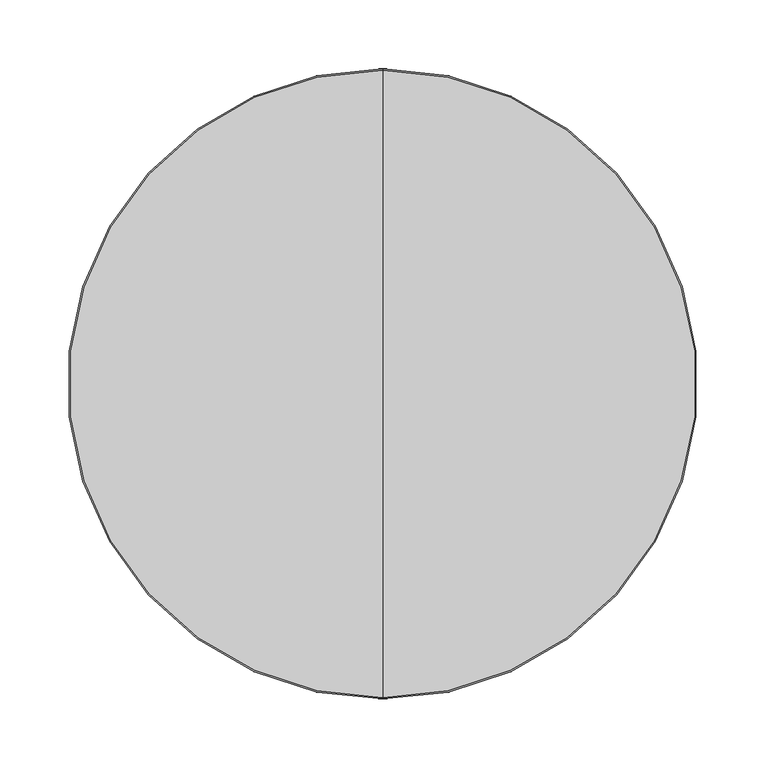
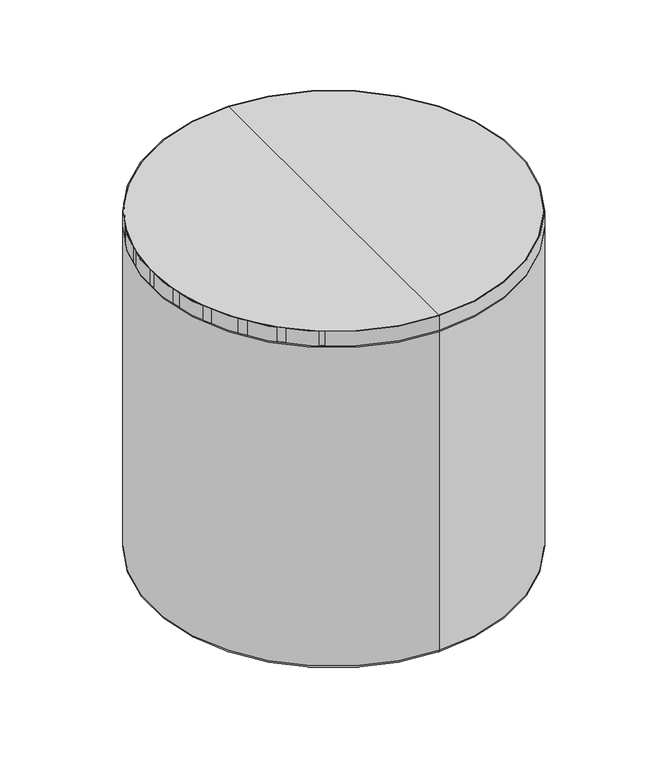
"""IFC4 building model written with IfcOpenShell, lengths in millimetres: furniture geometry, Indiana-Otty-Ottoman_Round_Table : 840-1818ROT."""

from ifc_helpers import new_model, si_unit, point, frame, origin, place, context, project, spatial, polyline, circle_curve, ellipse_curve, trimmed, source, transform, mapped, element, save
from ifc_brep_helpers import plane_surface, cylinder_surface, revolved_surface, advanced_brep


def furniture_52c28c99(model_context):
    return source(origin(), model_context, "Body", "AdvancedBrep", [
        advanced_brep(
        [(0.0, -227.6078125, 438.15), (0.0, 227.6078125, 438.15), (0.0, 0.0, 438.15), (0.0, -227.6078125, 457.2), (0.0, 227.6078125, 457.2), (0.0, 0.0, 457.2)],
        [
            (0, 1, circle_curve(frame((0.0, 0.0, 438.15), z_axis=(0.0, 0.0, -1.0), x_axis=(0.0, 1.0, 0.0)), 227.6078125)),
            (1, 2),
            (2, 0),
            (1, 0, circle_curve(frame((0.0, 0.0, 438.15), z_axis=(0.0, 0.0, -1.0), x_axis=(0.0, 1.0, 0.0)), 227.6078125)),
            (3, 4, circle_curve(frame((0.0, 0.0, 457.2), z_axis=(0.0, 0.0, -1.0), x_axis=(0.0, 1.0, 0.0)), 227.6078125)),
            (4, 1),
            (0, 3),
            (4, 3, circle_curve(frame((0.0, 0.0, 457.2), z_axis=(0.0, 0.0, -1.0), x_axis=(0.0, 1.0, 0.0)), 227.6078125)),
            (5, 4),
            (3, 5),
        ],
        [
            plane_surface(frame((0.0, 0.0, 438.15), z_axis=(0.0, 0.0, -1.0), x_axis=(0.0, 1.0, 0.0))),
            cylinder_surface(frame((0.0, 0.0, 463.55), z_axis=(0.0, 0.0, 1.0), x_axis=(0.0, 1.0, 0.0)), 227.6078125),
            plane_surface(frame((0.0, 0.0, 457.2), z_axis=(0.0, 0.0, 1.0), x_axis=(0.0, 1.0, 0.0))),
        ],
        [
            (0, [[1, 2, 3]]),
            (0, [[4, -3, -2]]),
            (1, [[5, 6, -1, 7]]),
            (1, [[8, -7, -4, -6]]),
            (2, [[9, -5, 10]]),
            (2, [[-10, -8, -9]]),
        ],
    ),
        advanced_brep(
        [(0.0, -227.6078125, 438.15), (0.0, 227.6078125, 438.15), (0.0, 227.6078125, 457.2), (0.0, -227.6078125, 457.2), (0.0, -228.6, 438.15), (0.0, 228.6, 438.15), (0.0, -228.6, 457.2), (0.0, 228.6, 457.2)],
        [
            (0, 1, circle_curve(frame((0.0, 0.0, 438.15), z_axis=(0.0, 0.0, -1.0), x_axis=(0.0, 1.0, 0.0)), 227.6078125)),
            (1, 2),
            (2, 3, circle_curve(frame((0.0, 0.0, 457.2), z_axis=(0.0, 0.0, 1.0), x_axis=(0.0, 1.0, 0.0)), 227.6078125)),
            (3, 0),
            (1, 0, circle_curve(frame((0.0, 0.0, 438.15), z_axis=(0.0, 0.0, -1.0), x_axis=(0.0, 1.0, 0.0)), 227.6078125)),
            (3, 2, circle_curve(frame((0.0, 0.0, 457.2), z_axis=(0.0, 0.0, 1.0), x_axis=(0.0, 1.0, 0.0)), 227.6078125)),
            (4, 5, circle_curve(frame((0.0, 0.0, 438.15), z_axis=(0.0, 0.0, -1.0), x_axis=(0.0, 1.0, 0.0)), 228.6)),
            (5, 1),
            (0, 4),
            (5, 4, circle_curve(frame((0.0, 0.0, 438.15), z_axis=(0.0, 0.0, -1.0), x_axis=(0.0, 1.0, 0.0)), 228.6)),
            (6, 7, circle_curve(frame((0.0, 0.0, 457.2), z_axis=(0.0, 0.0, -1.0), x_axis=(0.0, 1.0, 0.0)), 228.6)),
            (7, 5),
            (4, 6),
            (7, 6, circle_curve(frame((0.0, 0.0, 457.2), z_axis=(0.0, 0.0, -1.0), x_axis=(0.0, 1.0, 0.0)), 228.6)),
            (2, 7),
            (6, 3),
        ],
        [
            revolved_surface(polyline([(0.0, 227.6078125, 457.2), (0.0, 227.6078125, 438.15)]), (0.0, 0.0, 476.25), (0.0, 0.0, 1.0)),
            plane_surface(frame((0.0, 0.0, 438.15), z_axis=(0.0, 0.0, -1.0), x_axis=(0.0, 1.0, 0.0))),
            cylinder_surface(frame((0.0, 0.0, 476.25), z_axis=(0.0, 0.0, 1.0), x_axis=(0.0, 1.0, 0.0)), 228.6),
            plane_surface(frame((0.0, 0.0, 457.2), z_axis=(0.0, 0.0, 1.0), x_axis=(0.0, 1.0, 0.0))),
        ],
        [
            (0, [[1, 2, 3, 4]]),
            (0, [[5, -4, 6, -2]]),
            (1, [[7, 8, -1, 9]]),
            (1, [[10, -9, -5, -8]]),
            (2, [[11, 12, -7, 13]]),
            (2, [[14, -13, -10, -12]]),
            (3, [[-3, 15, -11, 16]]),
            (3, [[-6, -16, -14, -15]]),
        ],
    ),
        advanced_brep(
        [(126.4514457, -129.4834071, 19.8875), (126.4514457, -106.9834071, 19.8875), (126.4514457, -151.9834071, 19.8875), (126.4514457, -107.4318989, 4.2458827), (126.4514457, -151.5349153, 4.2458827), (126.4514457, -111.9170406, -0.1125), (126.4514457, -147.0497736, -0.1125), (126.4514457, -119.2157893, -0.1125), (126.4514457, -139.7510249, -0.1125), (126.4514457, -123.1102654, 3.9179615), (126.4514457, -135.8565488, 3.9179615), (126.4514457, -129.4834071, 3.9179615)],
        [
            (0, 1),
            (1, 2, circle_curve(frame((126.4514457, -129.4834071, 19.8875), z_axis=(0.0, 0.0, 1.0), x_axis=(0.0, 1.0, 0.0)), 22.5)),
            (2, 0),
            (2, 1, circle_curve(frame((126.4514457, -129.4834071, 19.8875), z_axis=(0.0, 0.0, 1.0), x_axis=(0.0, 1.0, 0.0)), 22.5)),
            (1, 3),
            (3, 4, circle_curve(frame((126.4514457, -129.4834071, 4.2458827), z_axis=(0.0, 0.0, 1.0), x_axis=(0.0, 1.0, 0.0)), 22.0515082)),
            (4, 2),
            (4, 3, circle_curve(frame((126.4514457, -129.4834071, 4.2458827), z_axis=(0.0, 0.0, 1.0), x_axis=(0.0, 1.0, 0.0)), 22.0515082)),
            (3, 5, circle_curve(frame((126.4514457, -111.9170406, 4.3744851), z_axis=(-1.0, 0.0, 0.0), x_axis=(0.0, -1.0, 0.0)), 4.4869851)),
            (5, 6, circle_curve(frame((126.4514457, -129.4834071, -0.1125), z_axis=(0.0, 0.0, 1.0), x_axis=(0.0, 1.0, 0.0)), 17.5663665)),
            (6, 4, circle_curve(frame((126.4514457, -147.0497736, 4.3744851), z_axis=(-1.0, 0.0, 0.0), x_axis=(0.0, 1.0, 0.0)), 4.4869851)),
            (6, 5, circle_curve(frame((126.4514457, -129.4834071, -0.1125), z_axis=(0.0, 0.0, 1.0), x_axis=(0.0, 1.0, 0.0)), 17.5663665)),
            (5, 7),
            (7, 8, circle_curve(frame((126.4514457, -129.4834071, -0.1125), z_axis=(0.0, 0.0, 1.0), x_axis=(0.0, 1.0, 0.0)), 10.2676178)),
            (8, 6),
            (8, 7, circle_curve(frame((126.4514457, -129.4834071, -0.1125), z_axis=(0.0, 0.0, 1.0), x_axis=(0.0, 1.0, 0.0)), 10.2676178)),
            (7, 9, circle_curve(frame((126.4514457, -119.2157893, 3.7842702), z_axis=(-1.0, 0.0, 0.0), x_axis=(0.0, -1.0, 0.0)), 3.8967702)),
            (9, 10, circle_curve(frame((126.4514457, -129.4834071, 3.9179615), z_axis=(0.0, 0.0, 1.0), x_axis=(0.0, 1.0, 0.0)), 6.3731417)),
            (10, 8, circle_curve(frame((126.4514457, -139.7510249, 3.7842702), z_axis=(-1.0, 0.0, 0.0), x_axis=(0.0, 1.0, 0.0)), 3.8967702)),
            (10, 9, circle_curve(frame((126.4514457, -129.4834071, 3.9179615), z_axis=(0.0, 0.0, 1.0), x_axis=(0.0, 1.0, 0.0)), 6.3731417)),
            (9, 11),
            (11, 10),
        ],
        [
            plane_surface(frame((126.4514457, -129.4834071, 19.8875), z_axis=(0.0, 0.0, 1.0), x_axis=(0.0, 1.0, 0.0))),
            revolved_surface(polyline([(126.4514457, -107.4318989, 4.2458827), (126.4514457, -106.9834071, 19.8875)]), (126.4514457, -129.4834071, 31.0803862), (0.0, 0.0, 1.0)),
            revolved_surface(trimmed(ellipse_curve(frame((126.4514457, -111.9170406, 4.3744851), z_axis=(1.0, 0.0, 0.0), x_axis=(0.0, -1.0, 0.0)), 4.4869851, 4.4869851), [point((126.4514457, -111.9170406, -0.1125))], [point((126.4514457, -107.4318989, 4.2458827))], True, "CARTESIAN"), (126.4514457, -129.4834071, 31.0803862), (0.0, 0.0, 1.0)),
            plane_surface(frame((126.4514457, -129.4834071, -0.1125), z_axis=(0.0, 0.0, -1.0), x_axis=(0.0, 1.0, 0.0))),
            revolved_surface(trimmed(ellipse_curve(frame((126.4514457, -119.2157893, 3.7842702), z_axis=(1.0, 0.0, 0.0), x_axis=(0.0, -1.0, 0.0)), 3.8967702, 3.8967702), [point((126.4514457, -123.1102654, 3.9179615))], [point((126.4514457, -119.2157893, -0.1125))], True, "CARTESIAN"), (126.4514457, -129.4834071, 31.0803862), (0.0, 0.0, 1.0)),
            plane_surface(frame((126.4514457, -129.4834071, 3.9179615), z_axis=(0.0, 0.0, -1.0), x_axis=(0.0, 1.0, 0.0))),
        ],
        [
            (0, [[1, 2, 3]]),
            (0, [[-3, 4, -1]]),
            (1, [[-2, 5, 6, 7]]),
            (1, [[-4, -7, 8, -5]]),
            (2, [[-6, 9, 10, 11]]),
            (2, [[-8, -11, 12, -9]]),
            (3, [[-10, 13, 14, 15]]),
            (3, [[-12, -15, 16, -13]]),
            (4, [[-14, 17, 18, 19]]),
            (4, [[-16, -19, 20, -17]]),
            (5, [[-18, 21, 22]]),
            (5, [[-20, -22, -21]]),
        ],
    ),
        advanced_brep(
        [(-129.4834071, -126.4514457, 19.8875), (-106.9834071, -126.4514457, 19.8875), (-151.9834071, -126.4514457, 19.8875), (-107.4318989, -126.4514457, 4.2458827), (-151.5349153, -126.4514457, 4.2458827), (-111.9170406, -126.4514457, -0.1125), (-147.0497736, -126.4514457, -0.1125), (-119.2157893, -126.4514457, -0.1125), (-139.7510249, -126.4514457, -0.1125), (-123.1102654, -126.4514457, 3.9179615), (-135.8565488, -126.4514457, 3.9179615), (-129.4834071, -126.4514457, 3.9179615)],
        [
            (0, 1),
            (1, 2, circle_curve(frame((-129.4834071, -126.4514457, 19.8875), z_axis=(0.0, 0.0, 1.0), x_axis=(1.0, 0.0, 0.0)), 22.5)),
            (2, 0),
            (2, 1, circle_curve(frame((-129.4834071, -126.4514457, 19.8875), z_axis=(0.0, 0.0, 1.0), x_axis=(1.0, 0.0, 0.0)), 22.5)),
            (1, 3),
            (3, 4, circle_curve(frame((-129.4834071, -126.4514457, 4.2458827), z_axis=(0.0, 0.0, 1.0), x_axis=(1.0, 0.0, 0.0)), 22.0515082)),
            (4, 2),
            (4, 3, circle_curve(frame((-129.4834071, -126.4514457, 4.2458827), z_axis=(0.0, 0.0, 1.0), x_axis=(1.0, 0.0, 0.0)), 22.0515082)),
            (3, 5, circle_curve(frame((-111.9170406, -126.4514457, 4.3744851), z_axis=(0.0, 1.0, 0.0), x_axis=(-1.0, 0.0, 0.0)), 4.4869851)),
            (5, 6, circle_curve(frame((-129.4834071, -126.4514457, -0.1125), z_axis=(0.0, 0.0, 1.0), x_axis=(1.0, 0.0, 0.0)), 17.5663665)),
            (6, 4, circle_curve(frame((-147.0497736, -126.4514457, 4.3744851), z_axis=(0.0, 1.0, 0.0), x_axis=(1.0, 0.0, 0.0)), 4.4869851)),
            (6, 5, circle_curve(frame((-129.4834071, -126.4514457, -0.1125), z_axis=(0.0, 0.0, 1.0), x_axis=(1.0, 0.0, 0.0)), 17.5663665)),
            (5, 7),
            (7, 8, circle_curve(frame((-129.4834071, -126.4514457, -0.1125), z_axis=(0.0, 0.0, 1.0), x_axis=(1.0, 0.0, 0.0)), 10.2676178)),
            (8, 6),
            (8, 7, circle_curve(frame((-129.4834071, -126.4514457, -0.1125), z_axis=(0.0, 0.0, 1.0), x_axis=(1.0, 0.0, 0.0)), 10.2676178)),
            (7, 9, circle_curve(frame((-119.2157893, -126.4514457, 3.7842702), z_axis=(0.0, 1.0, 0.0), x_axis=(-1.0, 0.0, 0.0)), 3.8967702)),
            (9, 10, circle_curve(frame((-129.4834071, -126.4514457, 3.9179615), z_axis=(0.0, 0.0, 1.0), x_axis=(1.0, 0.0, 0.0)), 6.3731417)),
            (10, 8, circle_curve(frame((-139.7510249, -126.4514457, 3.7842702), z_axis=(0.0, 1.0, 0.0), x_axis=(1.0, 0.0, 0.0)), 3.8967702)),
            (10, 9, circle_curve(frame((-129.4834071, -126.4514457, 3.9179615), z_axis=(0.0, 0.0, 1.0), x_axis=(1.0, 0.0, 0.0)), 6.3731417)),
            (9, 11),
            (11, 10),
        ],
        [
            plane_surface(frame((-129.4834071, -126.4514457, 19.8875), z_axis=(0.0, 0.0, 1.0), x_axis=(1.0, 0.0, 0.0))),
            revolved_surface(polyline([(-107.4318989, -126.4514457, 4.2458827), (-106.9834071, -126.4514457, 19.8875)]), (-129.4834071, -126.4514457, 31.0803862), (0.0, 0.0, 1.0)),
            revolved_surface(trimmed(ellipse_curve(frame((-111.9170406, -126.4514457, 4.3744851), z_axis=(0.0, -1.0, 0.0), x_axis=(-1.0, 0.0, 0.0)), 4.4869851, 4.4869851), [point((-111.9170406, -126.4514457, -0.1125))], [point((-107.4318989, -126.4514457, 4.2458827))], True, "CARTESIAN"), (-129.4834071, -126.4514457, 31.0803862), (0.0, 0.0, 1.0)),
            plane_surface(frame((-129.4834071, -126.4514457, -0.1125), z_axis=(0.0, 0.0, -1.0), x_axis=(1.0, 0.0, 0.0))),
            revolved_surface(trimmed(ellipse_curve(frame((-119.2157893, -126.4514457, 3.7842702), z_axis=(0.0, -1.0, 0.0), x_axis=(-1.0, 0.0, 0.0)), 3.8967702, 3.8967702), [point((-123.1102654, -126.4514457, 3.9179615))], [point((-119.2157893, -126.4514457, -0.1125))], True, "CARTESIAN"), (-129.4834071, -126.4514457, 31.0803862), (0.0, 0.0, 1.0)),
            plane_surface(frame((-129.4834071, -126.4514457, 3.9179615), z_axis=(0.0, 0.0, -1.0), x_axis=(1.0, 0.0, 0.0))),
        ],
        [
            (0, [[1, 2, 3]]),
            (0, [[-3, 4, -1]]),
            (1, [[-2, 5, 6, 7]]),
            (1, [[-4, -7, 8, -5]]),
            (2, [[-6, 9, 10, 11]]),
            (2, [[-8, -11, 12, -9]]),
            (3, [[-10, 13, 14, 15]]),
            (3, [[-12, -15, 16, -13]]),
            (4, [[-14, 17, 18, 19]]),
            (4, [[-16, -19, 20, -17]]),
            (5, [[-18, 21, 22]]),
            (5, [[-20, -22, -21]]),
        ],
    ),
        advanced_brep(
        [(129.4834071, 126.4514457, 19.8875), (106.9834071, 126.4514457, 19.8875), (151.9834071, 126.4514457, 19.8875), (107.4318989, 126.4514457, 4.2458827), (151.5349153, 126.4514457, 4.2458827), (111.9170406, 126.4514457, -0.1125), (147.0497736, 126.4514457, -0.1125), (119.2157893, 126.4514457, -0.1125), (139.7510249, 126.4514457, -0.1125), (123.1102654, 126.4514457, 3.9179615), (135.8565488, 126.4514457, 3.9179615), (129.4834071, 126.4514457, 3.9179615)],
        [
            (0, 1),
            (1, 2, circle_curve(frame((129.4834071, 126.4514457, 19.8875), z_axis=(0.0, 0.0, 1.0), x_axis=(-1.0, 0.0, 0.0)), 22.5)),
            (2, 0),
            (2, 1, circle_curve(frame((129.4834071, 126.4514457, 19.8875), z_axis=(0.0, 0.0, 1.0), x_axis=(-1.0, 0.0, 0.0)), 22.5)),
            (1, 3),
            (3, 4, circle_curve(frame((129.4834071, 126.4514457, 4.2458827), z_axis=(0.0, 0.0, 1.0), x_axis=(-1.0, 0.0, 0.0)), 22.0515082)),
            (4, 2),
            (4, 3, circle_curve(frame((129.4834071, 126.4514457, 4.2458827), z_axis=(0.0, 0.0, 1.0), x_axis=(-1.0, 0.0, 0.0)), 22.0515082)),
            (3, 5, circle_curve(frame((111.9170406, 126.4514457, 4.3744851), z_axis=(0.0, -1.0, 0.0), x_axis=(1.0, 0.0, 0.0)), 4.4869851)),
            (5, 6, circle_curve(frame((129.4834071, 126.4514457, -0.1125), z_axis=(0.0, 0.0, 1.0), x_axis=(-1.0, 0.0, 0.0)), 17.5663665)),
            (6, 4, circle_curve(frame((147.0497736, 126.4514457, 4.3744851), z_axis=(0.0, -1.0, 0.0), x_axis=(-1.0, 0.0, 0.0)), 4.4869851)),
            (6, 5, circle_curve(frame((129.4834071, 126.4514457, -0.1125), z_axis=(0.0, 0.0, 1.0), x_axis=(-1.0, 0.0, 0.0)), 17.5663665)),
            (5, 7),
            (7, 8, circle_curve(frame((129.4834071, 126.4514457, -0.1125), z_axis=(0.0, 0.0, 1.0), x_axis=(-1.0, 0.0, 0.0)), 10.2676178)),
            (8, 6),
            (8, 7, circle_curve(frame((129.4834071, 126.4514457, -0.1125), z_axis=(0.0, 0.0, 1.0), x_axis=(-1.0, 0.0, 0.0)), 10.2676178)),
            (7, 9, circle_curve(frame((119.2157893, 126.4514457, 3.7842702), z_axis=(0.0, -1.0, 0.0), x_axis=(1.0, 0.0, 0.0)), 3.8967702)),
            (9, 10, circle_curve(frame((129.4834071, 126.4514457, 3.9179615), z_axis=(0.0, 0.0, 1.0), x_axis=(-1.0, 0.0, 0.0)), 6.3731417)),
            (10, 8, circle_curve(frame((139.7510249, 126.4514457, 3.7842702), z_axis=(0.0, -1.0, 0.0), x_axis=(-1.0, 0.0, 0.0)), 3.8967702)),
            (10, 9, circle_curve(frame((129.4834071, 126.4514457, 3.9179615), z_axis=(0.0, 0.0, 1.0), x_axis=(-1.0, 0.0, 0.0)), 6.3731417)),
            (9, 11),
            (11, 10),
        ],
        [
            plane_surface(frame((129.4834071, 126.4514457, 19.8875), z_axis=(0.0, 0.0, 1.0), x_axis=(-1.0, 0.0, 0.0))),
            revolved_surface(polyline([(107.4318989, 126.4514457, 4.2458827), (106.9834071, 126.4514457, 19.8875)]), (129.4834071, 126.4514457, 31.0803862), (0.0, 0.0, 1.0)),
            revolved_surface(trimmed(ellipse_curve(frame((111.9170406, 126.4514457, 4.3744851), z_axis=(0.0, 1.0, 0.0), x_axis=(1.0, 0.0, 0.0)), 4.4869851, 4.4869851), [point((111.9170406, 126.4514457, -0.1125))], [point((107.4318989, 126.4514457, 4.2458827))], True, "CARTESIAN"), (129.4834071, 126.4514457, 31.0803862), (0.0, 0.0, 1.0)),
            plane_surface(frame((129.4834071, 126.4514457, -0.1125), z_axis=(0.0, 0.0, -1.0), x_axis=(-1.0, 0.0, 0.0))),
            revolved_surface(trimmed(ellipse_curve(frame((119.2157893, 126.4514457, 3.7842702), z_axis=(0.0, 1.0, 0.0), x_axis=(1.0, 0.0, 0.0)), 3.8967702, 3.8967702), [point((123.1102654, 126.4514457, 3.9179615))], [point((119.2157893, 126.4514457, -0.1125))], True, "CARTESIAN"), (129.4834071, 126.4514457, 31.0803862), (0.0, 0.0, 1.0)),
            plane_surface(frame((129.4834071, 126.4514457, 3.9179615), z_axis=(0.0, 0.0, -1.0), x_axis=(-1.0, 0.0, 0.0))),
        ],
        [
            (0, [[1, 2, 3]]),
            (0, [[-3, 4, -1]]),
            (1, [[-2, 5, 6, 7]]),
            (1, [[-4, -7, 8, -5]]),
            (2, [[-6, 9, 10, 11]]),
            (2, [[-8, -11, 12, -9]]),
            (3, [[-10, 13, 14, 15]]),
            (3, [[-12, -15, 16, -13]]),
            (4, [[-14, 17, 18, 19]]),
            (4, [[-16, -19, 20, -17]]),
            (5, [[-18, 21, 22]]),
            (5, [[-20, -22, -21]]),
        ],
    ),
        advanced_brep(
        [(-126.4514457, 129.4834071, 19.8875), (-126.4514457, 106.9834071, 19.8875), (-126.4514457, 151.9834071, 19.8875), (-126.4514457, 107.4318989, 4.2458827), (-126.4514457, 151.5349153, 4.2458827), (-126.4514457, 111.9170406, -0.1125), (-126.4514457, 147.0497736, -0.1125), (-126.4514457, 119.2157893, -0.1125), (-126.4514457, 139.7510249, -0.1125), (-126.4514457, 123.1102654, 3.9179615), (-126.4514457, 135.8565488, 3.9179615), (-126.4514457, 129.4834071, 3.9179615)],
        [
            (0, 1),
            (1, 2, circle_curve(frame((-126.4514457, 129.4834071, 19.8875), z_axis=(0.0, 0.0, 1.0), x_axis=(0.0, -1.0, 0.0)), 22.5)),
            (2, 0),
            (2, 1, circle_curve(frame((-126.4514457, 129.4834071, 19.8875), z_axis=(0.0, 0.0, 1.0), x_axis=(0.0, -1.0, 0.0)), 22.5)),
            (1, 3),
            (3, 4, circle_curve(frame((-126.4514457, 129.4834071, 4.2458827), z_axis=(0.0, 0.0, 1.0), x_axis=(0.0, -1.0, 0.0)), 22.0515082)),
            (4, 2),
            (4, 3, circle_curve(frame((-126.4514457, 129.4834071, 4.2458827), z_axis=(0.0, 0.0, 1.0), x_axis=(0.0, -1.0, 0.0)), 22.0515082)),
            (3, 5, circle_curve(frame((-126.4514457, 111.9170406, 4.3744851), z_axis=(1.0, 0.0, 0.0), x_axis=(0.0, 1.0, 0.0)), 4.4869851)),
            (5, 6, circle_curve(frame((-126.4514457, 129.4834071, -0.1125), z_axis=(0.0, 0.0, 1.0), x_axis=(0.0, -1.0, 0.0)), 17.5663665)),
            (6, 4, circle_curve(frame((-126.4514457, 147.0497736, 4.3744851), z_axis=(1.0, 0.0, 0.0), x_axis=(0.0, -1.0, 0.0)), 4.4869851)),
            (6, 5, circle_curve(frame((-126.4514457, 129.4834071, -0.1125), z_axis=(0.0, 0.0, 1.0), x_axis=(0.0, -1.0, 0.0)), 17.5663665)),
            (5, 7),
            (7, 8, circle_curve(frame((-126.4514457, 129.4834071, -0.1125), z_axis=(0.0, 0.0, 1.0), x_axis=(0.0, -1.0, 0.0)), 10.2676178)),
            (8, 6),
            (8, 7, circle_curve(frame((-126.4514457, 129.4834071, -0.1125), z_axis=(0.0, 0.0, 1.0), x_axis=(0.0, -1.0, 0.0)), 10.2676178)),
            (7, 9, circle_curve(frame((-126.4514457, 119.2157893, 3.7842702), z_axis=(1.0, 0.0, 0.0), x_axis=(0.0, 1.0, 0.0)), 3.8967702)),
            (9, 10, circle_curve(frame((-126.4514457, 129.4834071, 3.9179615), z_axis=(0.0, 0.0, 1.0), x_axis=(0.0, -1.0, 0.0)), 6.3731417)),
            (10, 8, circle_curve(frame((-126.4514457, 139.7510249, 3.7842702), z_axis=(1.0, 0.0, 0.0), x_axis=(0.0, -1.0, 0.0)), 3.8967702)),
            (10, 9, circle_curve(frame((-126.4514457, 129.4834071, 3.9179615), z_axis=(0.0, 0.0, 1.0), x_axis=(0.0, -1.0, 0.0)), 6.3731417)),
            (9, 11),
            (11, 10),
        ],
        [
            plane_surface(frame((-126.4514457, 129.4834071, 19.8875), z_axis=(0.0, 0.0, 1.0), x_axis=(0.0, -1.0, 0.0))),
            revolved_surface(polyline([(-126.4514457, 107.4318989, 4.2458827), (-126.4514457, 106.9834071, 19.8875)]), (-126.4514457, 129.4834071, 31.0803862), (0.0, 0.0, 1.0)),
            revolved_surface(trimmed(ellipse_curve(frame((-126.4514457, 111.9170406, 4.3744851), z_axis=(-1.0, 0.0, 0.0), x_axis=(0.0, 1.0, 0.0)), 4.4869851, 4.4869851), [point((-126.4514457, 111.9170406, -0.1125))], [point((-126.4514457, 107.4318989, 4.2458827))], True, "CARTESIAN"), (-126.4514457, 129.4834071, 31.0803862), (0.0, 0.0, 1.0)),
            plane_surface(frame((-126.4514457, 129.4834071, -0.1125), z_axis=(0.0, 0.0, -1.0), x_axis=(0.0, -1.0, 0.0))),
            revolved_surface(trimmed(ellipse_curve(frame((-126.4514457, 119.2157893, 3.7842702), z_axis=(-1.0, 0.0, 0.0), x_axis=(0.0, 1.0, 0.0)), 3.8967702, 3.8967702), [point((-126.4514457, 123.1102654, 3.9179615))], [point((-126.4514457, 119.2157893, -0.1125))], True, "CARTESIAN"), (-126.4514457, 129.4834071, 31.0803862), (0.0, 0.0, 1.0)),
            plane_surface(frame((-126.4514457, 129.4834071, 3.9179615), z_axis=(0.0, 0.0, -1.0), x_axis=(0.0, -1.0, 0.0))),
        ],
        [
            (0, [[1, 2, 3]]),
            (0, [[-3, 4, -1]]),
            (1, [[-2, 5, 6, 7]]),
            (1, [[-4, -7, 8, -5]]),
            (2, [[-6, 9, 10, 11]]),
            (2, [[-8, -11, 12, -9]]),
            (3, [[-10, 13, 14, 15]]),
            (3, [[-12, -15, 16, -13]]),
            (4, [[-14, 17, 18, 19]]),
            (4, [[-16, -19, 20, -17]]),
            (5, [[-18, 21, 22]]),
            (5, [[-20, -22, -21]]),
        ],
    ),
        advanced_brep(
        [(0.0, 228.6, 14.675), (0.0, 225.425, 11.5), (0.0, -225.425, 11.5), (0.0, -228.6, 14.675), (0.0, 228.6, 436.165625), (0.0, -228.6, 436.165625), (0.0, 0.0, 438.15), (0.0, 226.615625, 438.15), (0.0, -226.615625, 438.15), (0.0, 0.0, 11.5), (-129.4834071, -149.4701957, 11.5), (-129.4834071, -103.4326957, 11.5), (-149.4701957, 129.4834071, 11.5), (-103.4326957, 129.4834071, 11.5), (149.4701957, -129.4834071, 11.5), (103.4326957, -129.4834071, 11.5), (129.4834071, 149.4701957, 11.5), (129.4834071, 103.4326957, 11.5), (-129.4834071, -103.4326957, 19.834375), (-129.4834071, -149.4701957, 19.834375), (103.4326957, -129.4834071, 19.834375), (149.4701957, -129.4834071, 19.834375), (129.4834071, 103.4326957, 19.834375), (129.4834071, 149.4701957, 19.834375), (-103.4326957, 129.4834071, 19.834375), (-149.4701957, 129.4834071, 19.834375)],
        [
            (0, 1, circle_curve(frame((0.0, 225.425, 14.675), z_axis=(-1.0, 0.0, 0.0), x_axis=(0.0, 1.0, 0.0)), 3.175)),
            (1, 2, circle_curve(frame((0.0, 0.0, 11.5), z_axis=(0.0, 0.0, 1.0), x_axis=(0.0, 1.0, 0.0)), 225.425)),
            (2, 3, circle_curve(frame((0.0, -225.425, 14.675), z_axis=(-1.0, 0.0, 0.0), x_axis=(0.0, -1.0, 0.0)), 3.175)),
            (3, 0, circle_curve(frame((0.0, 0.0, 14.675), z_axis=(0.0, 0.0, -1.0), x_axis=(0.0, 1.0, 0.0)), 228.6)),
            (0, 3, circle_curve(frame((0.0, 0.0, 14.675), z_axis=(0.0, 0.0, -1.0), x_axis=(0.0, 1.0, 0.0)), 228.6)),
            (2, 1, circle_curve(frame((0.0, 0.0, 11.5), z_axis=(0.0, 0.0, 1.0), x_axis=(0.0, 1.0, 0.0)), 225.425)),
            (4, 0),
            (3, 5),
            (5, 4, circle_curve(frame((0.0, 0.0, 436.165625), z_axis=(0.0, 0.0, -1.0), x_axis=(0.0, 1.0, 0.0)), 228.6)),
            (4, 5, circle_curve(frame((0.0, 0.0, 436.165625), z_axis=(0.0, 0.0, -1.0), x_axis=(0.0, 1.0, 0.0)), 228.6)),
            (6, 7),
            (7, 8, circle_curve(frame((0.0, 0.0, 438.15), z_axis=(0.0, 0.0, 1.0), x_axis=(0.0, 1.0, 0.0)), 226.615625)),
            (8, 6),
            (8, 7, circle_curve(frame((0.0, 0.0, 438.15), z_axis=(0.0, 0.0, 1.0), x_axis=(0.0, 1.0, 0.0)), 226.615625)),
            (1, 9),
            (9, 2),
            (10, 11, circle_curve(frame((-129.4834071, -126.4514457, 11.5), z_axis=(0.0, 0.0, 1.0), x_axis=(0.0, -1.0, 0.0)), 23.01875)),
            (11, 10, circle_curve(frame((-129.4834071, -126.4514457, 11.5), z_axis=(0.0, 0.0, 1.0), x_axis=(0.0, -1.0, 0.0)), 23.01875)),
            (12, 13, circle_curve(frame((-126.4514457, 129.4834071, 11.5), z_axis=(0.0, 0.0, 1.0), x_axis=(-1.0, 0.0, 0.0)), 23.01875)),
            (13, 12, circle_curve(frame((-126.4514457, 129.4834071, 11.5), z_axis=(0.0, 0.0, 1.0), x_axis=(-1.0, 0.0, 0.0)), 23.01875)),
            (14, 15, circle_curve(frame((126.4514457, -129.4834071, 11.5), z_axis=(0.0, 0.0, 1.0), x_axis=(1.0, 0.0, 0.0)), 23.01875)),
            (15, 14, circle_curve(frame((126.4514457, -129.4834071, 11.5), z_axis=(0.0, 0.0, 1.0), x_axis=(1.0, 0.0, 0.0)), 23.01875)),
            (16, 17, circle_curve(frame((129.4834071, 126.4514457, 11.5), z_axis=(0.0, 0.0, 1.0), x_axis=(0.0, 1.0, 0.0)), 23.01875)),
            (17, 16, circle_curve(frame((129.4834071, 126.4514457, 11.5), z_axis=(0.0, 0.0, 1.0), x_axis=(0.0, 1.0, 0.0)), 23.01875)),
            (18, 19, circle_curve(frame((-129.4834071, -126.4514457, 19.834375), z_axis=(0.0, 0.0, -1.0), x_axis=(0.0, -1.0, 0.0)), 23.01875)),
            (19, 18, circle_curve(frame((-129.4834071, -126.4514457, 19.834375), z_axis=(0.0, 0.0, -1.0), x_axis=(0.0, -1.0, 0.0)), 23.01875)),
            (18, 11),
            (10, 19),
            (20, 21, circle_curve(frame((126.4514457, -129.4834071, 19.834375), z_axis=(0.0, 0.0, -1.0), x_axis=(1.0, 0.0, 0.0)), 23.01875)),
            (21, 20, circle_curve(frame((126.4514457, -129.4834071, 19.834375), z_axis=(0.0, 0.0, -1.0), x_axis=(1.0, 0.0, 0.0)), 23.01875)),
            (20, 15),
            (14, 21),
            (22, 23, circle_curve(frame((129.4834071, 126.4514457, 19.834375), z_axis=(0.0, 0.0, -1.0), x_axis=(0.0, 1.0, 0.0)), 23.01875)),
            (23, 22, circle_curve(frame((129.4834071, 126.4514457, 19.834375), z_axis=(0.0, 0.0, -1.0), x_axis=(0.0, 1.0, 0.0)), 23.01875)),
            (22, 17),
            (16, 23),
            (7, 4, circle_curve(frame((0.0, 226.615625, 436.165625), z_axis=(-1.0, 0.0, 0.0), x_axis=(0.0, 1.0, 0.0)), 1.984375)),
            (5, 8, circle_curve(frame((0.0, -226.615625, 436.165625), z_axis=(-1.0, 0.0, 0.0), x_axis=(0.0, -1.0, 0.0)), 1.984375)),
            (24, 25, circle_curve(frame((-126.4514457, 129.4834071, 19.834375), z_axis=(0.0, 0.0, -1.0), x_axis=(-1.0, 0.0, 0.0)), 23.01875)),
            (25, 24, circle_curve(frame((-126.4514457, 129.4834071, 19.834375), z_axis=(0.0, 0.0, -1.0), x_axis=(-1.0, 0.0, 0.0)), 23.01875)),
            (24, 13),
            (12, 25),
        ],
        [
            revolved_surface(trimmed(ellipse_curve(frame((0.0, 225.425, 14.675), z_axis=(1.0, 0.0, 0.0), x_axis=(0.0, 1.0, 0.0)), 3.175, 3.175), [point((0.0, 225.425, 11.5))], [point((0.0, 228.6, 14.675))], True, "CARTESIAN"), (0.0, 0.0, 692.15), (0.0, 0.0, 1.0)),
            cylinder_surface(frame((0.0, 0.0, 692.15), z_axis=(0.0, 0.0, 1.0), x_axis=(0.0, 1.0, 0.0)), 228.6),
            plane_surface(frame((0.0, 0.0, 438.15), z_axis=(0.0, 0.0, 1.0), x_axis=(0.0, 1.0, 0.0))),
            plane_surface(frame((0.0, 0.0, 11.5), z_axis=(0.0, 0.0, -1.0), x_axis=(0.0, 1.0, 0.0))),
            plane_surface(frame((-129.4834071, -149.4701957, 19.834375), z_axis=(0.0, 0.0, -1.0), x_axis=(1.0, 0.0, 0.0))),
            revolved_surface(polyline([(-129.4834071, -149.4701957, 11.5), (-129.4834071, -149.4701957, 19.834375)]), (-129.4834071, -126.4514457, 19.834375), (0.0, 0.0, -1.0)),
            plane_surface(frame((149.4701957, -129.4834071, 19.834375), z_axis=(0.0, 0.0, -1.0), x_axis=(0.0, 1.0, 0.0))),
            revolved_surface(polyline([(149.4701957, -129.4834071, 11.5), (149.4701957, -129.4834071, 19.834375)]), (126.4514457, -129.4834071, 19.834375), (0.0, 0.0, -1.0)),
            plane_surface(frame((129.4834071, 149.4701957, 19.834375), z_axis=(0.0, 0.0, -1.0), x_axis=(-1.0, 0.0, 0.0))),
            revolved_surface(polyline([(129.4834071, 149.4701957, 11.5), (129.4834071, 149.4701957, 19.834375)]), (129.4834071, 126.4514457, 19.834375), (0.0, 0.0, -1.0)),
            revolved_surface(trimmed(ellipse_curve(frame((0.0, 226.615625, 436.165625), z_axis=(1.0, 0.0, 0.0), x_axis=(0.0, 1.0, 0.0)), 1.984375, 1.984375), [point((0.0, 228.6, 436.165625))], [point((0.0, 226.615625, 438.15))], True, "CARTESIAN"), (0.0, 0.0, 692.15), (0.0, 0.0, 1.0)),
            plane_surface(frame((-149.4701957, 129.4834071, 19.834375), z_axis=(0.0, 0.0, -1.0), x_axis=(0.0, -1.0, 0.0))),
            revolved_surface(polyline([(-149.4701957, 129.4834071, 11.5), (-149.4701957, 129.4834071, 19.834375)]), (-126.4514457, 129.4834071, 19.834375), (0.0, 0.0, -1.0)),
        ],
        [
            (0, [[1, 2, 3, 4]]),
            (0, [[-1, 5, -3, 6]]),
            (1, [[7, -4, 8, 9]]),
            (1, [[-7, 10, -8, -5]]),
            (2, [[11, 12, 13]]),
            (2, [[-11, -13, 14]]),
            (3, [[15, 16, -2], [17, 18], [19, 20]]),
            (3, [[-15, -6, -16], [21, 22], [23, 24]]),
            (4, [[25, 26]]),
            (5, [[-25, 27, -17, 28]]),
            (5, [[-26, -28, -18, -27]]),
            (6, [[29, 30]]),
            (7, [[-29, 31, -21, 32]]),
            (7, [[-30, -32, -22, -31]]),
            (8, [[33, 34]]),
            (9, [[-33, 35, -23, 36]]),
            (9, [[-34, -36, -24, -35]]),
            (10, [[-12, 37, -9, 38]]),
            (10, [[-14, -38, -10, -37]]),
            (11, [[39, 40]]),
            (12, [[-39, 41, -19, 42]]),
            (12, [[-40, -42, -20, -41]]),
        ],
    ),
    ])


if __name__ == "__main__":
    model = new_model("IFC4")
    model_context = context("Model", 3, world=origin())
    ifc_project = project(units=[si_unit("LENGTHUNIT", "METRE", prefix="MILLI")], contexts=[model_context])
    site = spatial("IfcSite", under=ifc_project)
    building = spatial("IfcBuilding", under=site)
    placement = place(None, origin())
    furniture_shape = furniture_52c28c99(model_context)
    element("IfcFurniture", 1, ObjectType="Indiana-Otty-Ottoman_Round_Table : 840-1818ROT", at=placement, inside=building, context=model_context, shape_type="MappedRepresentation", body=[
        mapped(furniture_shape, transform((0.0, 0.0, 0.0), x_axis=(1.0, 0.0, 0.0), y_axis=(0.0, 1.0, 0.0), z_axis=(0.0, 0.0, 1.0))),
    ])
    save(model, "model.ifc")
